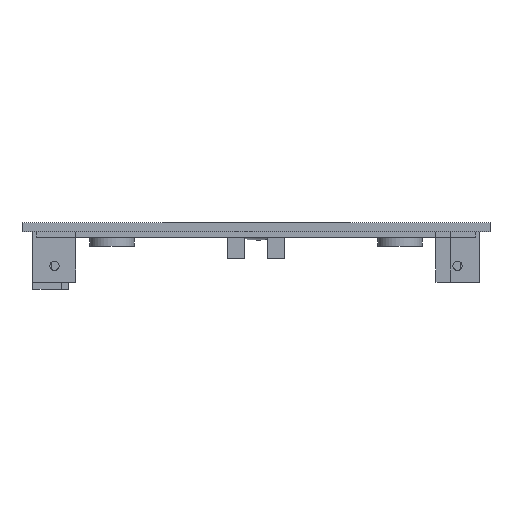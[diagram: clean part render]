
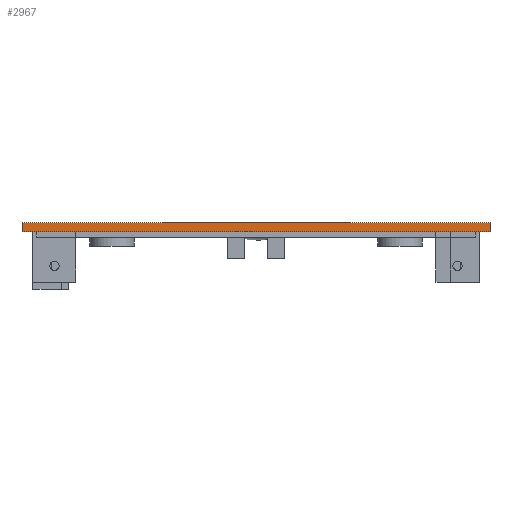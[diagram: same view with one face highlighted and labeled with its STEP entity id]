
A CAD part, front view. The second image highlights one B-rep face of the part: STEP entity #2967.
In plain terms, the highlighted planar face has unit normal (0, -1, 0).
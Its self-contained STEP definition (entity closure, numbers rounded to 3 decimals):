
#2851 = EDGE_CURVE('',#2852,#2854,#2856,.T.);
#2852 = VERTEX_POINT('',#2853);
#2853 = CARTESIAN_POINT('',(64.5,0.,130.));
#2854 = VERTEX_POINT('',#2855);
#2855 = CARTESIAN_POINT('',(64.5,0.,128.75));
#2856 = SURFACE_CURVE('',#2857,(#2861,#2873),.PCURVE_S1.);
#2857 = LINE('',#2858,#2859);
#2858 = CARTESIAN_POINT('',(64.5,0.,130.));
#2859 = VECTOR('',#2860,1.);
#2860 = DIRECTION('',(0.,0.,-1.));
#2861 = PCURVE('',#2862,#2867);
#2862 = PLANE('',#2863);
#2863 = AXIS2_PLACEMENT_3D('',#2864,#2865,#2866);
#2864 = CARTESIAN_POINT('',(64.5,0.,130.));
#2865 = DIRECTION('',(-1.,0.,0.));
#2866 = DIRECTION('',(0.,0.,-1.));
#2867 = DEFINITIONAL_REPRESENTATION('',(#2868),#2872);
#2868 = LINE('',#2869,#2870);
#2869 = CARTESIAN_POINT('',(0.,0.));
#2870 = VECTOR('',#2871,1.);
#2871 = DIRECTION('',(1.,0.));
#2872 = ( GEOMETRIC_REPRESENTATION_CONTEXT(2) 
PARAMETRIC_REPRESENTATION_CONTEXT() REPRESENTATION_CONTEXT('2D SPACE',''
  ) );
#2873 = PCURVE('',#2874,#2879);
#2874 = PLANE('',#2875);
#2875 = AXIS2_PLACEMENT_3D('',#2876,#2877,#2878);
#2876 = CARTESIAN_POINT('',(64.5,0.,130.));
#2877 = DIRECTION('',(0.,1.,0.));
#2878 = DIRECTION('',(0.,0.,-1.));
#2879 = DEFINITIONAL_REPRESENTATION('',(#2880),#2884);
#2880 = LINE('',#2881,#2882);
#2881 = CARTESIAN_POINT('',(0.,0.));
#2882 = VECTOR('',#2883,1.);
#2883 = DIRECTION('',(1.,0.));
#2884 = ( GEOMETRIC_REPRESENTATION_CONTEXT(2) 
PARAMETRIC_REPRESENTATION_CONTEXT() REPRESENTATION_CONTEXT('2D SPACE',''
  ) );
#2902 = PLANE('',#2903);
#2903 = AXIS2_PLACEMENT_3D('',#2904,#2905,#2906);
#2904 = CARTESIAN_POINT('',(64.5,0.,130.));
#2905 = DIRECTION('',(0.,0.,-1.));
#2906 = DIRECTION('',(-1.,0.,0.));
#2956 = PLANE('',#2957);
#2957 = AXIS2_PLACEMENT_3D('',#2958,#2959,#2960);
#2958 = CARTESIAN_POINT('',(64.5,0.,128.75));
#2959 = DIRECTION('',(0.,0.,-1.));
#2960 = DIRECTION('',(-1.,0.,0.));
#2967 = ADVANCED_FACE('',(#2968),#2874,.F.);
#2968 = FACE_BOUND('',#2969,.F.);
#2969 = EDGE_LOOP('',(#2970,#2993,#2994,#3017));
#2970 = ORIENTED_EDGE('',*,*,#2971,.F.);
#2971 = EDGE_CURVE('',#2852,#2972,#2974,.T.);
#2972 = VERTEX_POINT('',#2973);
#2973 = CARTESIAN_POINT('',(-0.5,0.,130.));
#2974 = SURFACE_CURVE('',#2975,(#2979,#2986),.PCURVE_S1.);
#2975 = LINE('',#2976,#2977);
#2976 = CARTESIAN_POINT('',(64.5,0.,130.));
#2977 = VECTOR('',#2978,1.);
#2978 = DIRECTION('',(-1.,0.,0.));
#2979 = PCURVE('',#2874,#2980);
#2980 = DEFINITIONAL_REPRESENTATION('',(#2981),#2985);
#2981 = LINE('',#2982,#2983);
#2982 = CARTESIAN_POINT('',(0.,0.));
#2983 = VECTOR('',#2984,1.);
#2984 = DIRECTION('',(0.,1.));
#2985 = ( GEOMETRIC_REPRESENTATION_CONTEXT(2) 
PARAMETRIC_REPRESENTATION_CONTEXT() REPRESENTATION_CONTEXT('2D SPACE',''
  ) );
#2986 = PCURVE('',#2902,#2987);
#2987 = DEFINITIONAL_REPRESENTATION('',(#2988),#2992);
#2988 = LINE('',#2989,#2990);
#2989 = CARTESIAN_POINT('',(0.,0.));
#2990 = VECTOR('',#2991,1.);
#2991 = DIRECTION('',(1.,0.));
#2992 = ( GEOMETRIC_REPRESENTATION_CONTEXT(2) 
PARAMETRIC_REPRESENTATION_CONTEXT() REPRESENTATION_CONTEXT('2D SPACE',''
  ) );
#2993 = ORIENTED_EDGE('',*,*,#2851,.T.);
#2994 = ORIENTED_EDGE('',*,*,#2995,.T.);
#2995 = EDGE_CURVE('',#2854,#2996,#2998,.T.);
#2996 = VERTEX_POINT('',#2997);
#2997 = CARTESIAN_POINT('',(-0.5,0.,128.75));
#2998 = SURFACE_CURVE('',#2999,(#3003,#3010),.PCURVE_S1.);
#2999 = LINE('',#3000,#3001);
#3000 = CARTESIAN_POINT('',(64.5,0.,128.75));
#3001 = VECTOR('',#3002,1.);
#3002 = DIRECTION('',(-1.,0.,0.));
#3003 = PCURVE('',#2874,#3004);
#3004 = DEFINITIONAL_REPRESENTATION('',(#3005),#3009);
#3005 = LINE('',#3006,#3007);
#3006 = CARTESIAN_POINT('',(1.25,0.));
#3007 = VECTOR('',#3008,1.);
#3008 = DIRECTION('',(0.,1.));
#3009 = ( GEOMETRIC_REPRESENTATION_CONTEXT(2) 
PARAMETRIC_REPRESENTATION_CONTEXT() REPRESENTATION_CONTEXT('2D SPACE',''
  ) );
#3010 = PCURVE('',#2956,#3011);
#3011 = DEFINITIONAL_REPRESENTATION('',(#3012),#3016);
#3012 = LINE('',#3013,#3014);
#3013 = CARTESIAN_POINT('',(0.,0.));
#3014 = VECTOR('',#3015,1.);
#3015 = DIRECTION('',(1.,0.));
#3016 = ( GEOMETRIC_REPRESENTATION_CONTEXT(2) 
PARAMETRIC_REPRESENTATION_CONTEXT() REPRESENTATION_CONTEXT('2D SPACE',''
  ) );
#3017 = ORIENTED_EDGE('',*,*,#3018,.F.);
#3018 = EDGE_CURVE('',#2972,#2996,#3019,.T.);
#3019 = SURFACE_CURVE('',#3020,(#3024,#3031),.PCURVE_S1.);
#3020 = LINE('',#3021,#3022);
#3021 = CARTESIAN_POINT('',(-0.5,0.,130.));
#3022 = VECTOR('',#3023,1.);
#3023 = DIRECTION('',(0.,0.,-1.));
#3024 = PCURVE('',#2874,#3025);
#3025 = DEFINITIONAL_REPRESENTATION('',(#3026),#3030);
#3026 = LINE('',#3027,#3028);
#3027 = CARTESIAN_POINT('',(0.,65.));
#3028 = VECTOR('',#3029,1.);
#3029 = DIRECTION('',(1.,0.));
#3030 = ( GEOMETRIC_REPRESENTATION_CONTEXT(2) 
PARAMETRIC_REPRESENTATION_CONTEXT() REPRESENTATION_CONTEXT('2D SPACE',''
  ) );
#3031 = PCURVE('',#3032,#3037);
#3032 = PLANE('',#3033);
#3033 = AXIS2_PLACEMENT_3D('',#3034,#3035,#3036);
#3034 = CARTESIAN_POINT('',(-0.5,0.,130.));
#3035 = DIRECTION('',(-1.,0.,0.));
#3036 = DIRECTION('',(0.,0.,-1.));
#3037 = DEFINITIONAL_REPRESENTATION('',(#3038),#3042);
#3038 = LINE('',#3039,#3040);
#3039 = CARTESIAN_POINT('',(0.,0.));
#3040 = VECTOR('',#3041,1.);
#3041 = DIRECTION('',(1.,0.));
#3042 = ( GEOMETRIC_REPRESENTATION_CONTEXT(2) 
PARAMETRIC_REPRESENTATION_CONTEXT() REPRESENTATION_CONTEXT('2D SPACE',''
  ) );
